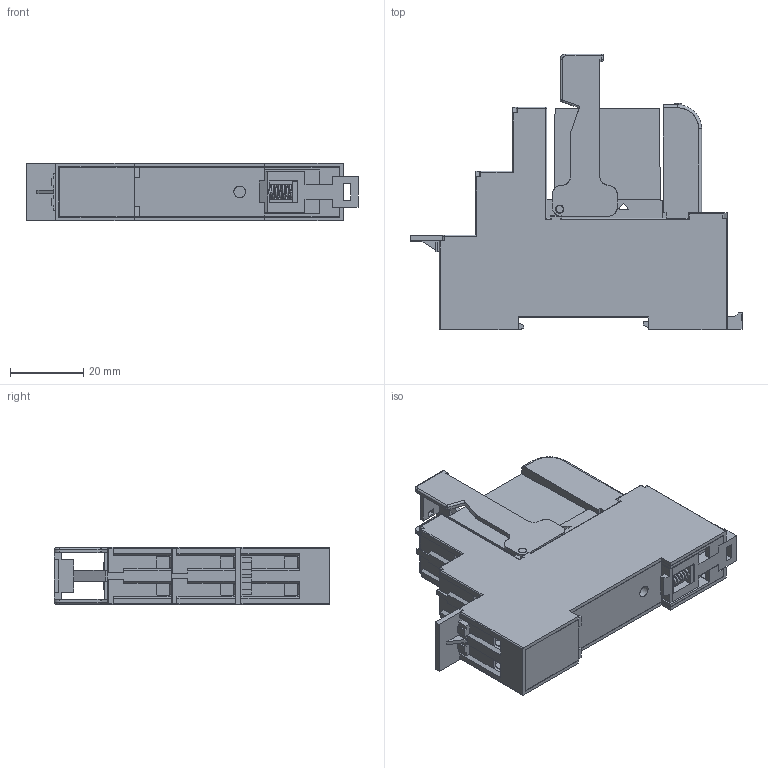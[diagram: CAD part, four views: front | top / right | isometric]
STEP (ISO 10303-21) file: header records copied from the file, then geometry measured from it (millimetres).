
FILE_DESCRIPTION(('STEP AP214'),'2;1');
FILE_NAME('48_52---completo.stp','2011-04-12T16:06:19',(''),(''),'2007.1.106','THINKDESIGN','');
FILE_SCHEMA(('AUTOMOTIVE_DESIGN'));
Products named in the file (1): None
Bounding box: 90.8 x 75.4 x 15.85 mm (x, y, z)
Surface area: 28683.6 mm2 (no closed solid volume)
Topology: 0 solids, 0 shells, 1094 faces, 5870 edges, 5850 vertices
Faces by surface type: plane 867, cylinder 154, bspline 73
Full cylindrical faces by diameter (mm): 1.8 x1, 2 x3, 2.2 x8, 2.6 x8, 3 x8, 3.2 x1, 4.7 x8, 5 x8
Entity records: 60395 total; most frequent: CARTESIAN_POINT 17151, DIRECTION 7538, COMPOSITE_CURVE_SEGMENT 5854, TRIMMED_CURVE 5106, VECTOR 4748, LINE 4748, AXIS2_PLACEMENT_3D 1395, OUTER_BOUNDARY_CURVE 1094
